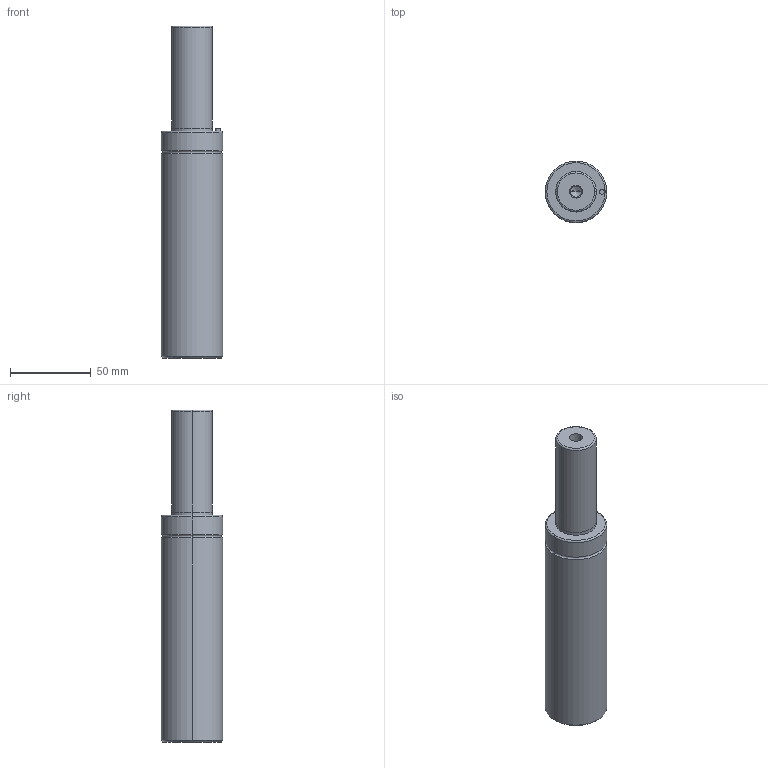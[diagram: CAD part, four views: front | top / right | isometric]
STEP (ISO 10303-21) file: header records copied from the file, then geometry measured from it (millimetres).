
FILE_DESCRIPTION(/* description */ (''),/* implementation_level */ '2;1');
FILE_NAME(/* name */ '3d_gsm38-63_03905_r00.stp',/* time_stamp */ '2011-01-10T14:15:15+09:00',/* author */ ('MISUMI'),/* organization */ (''),/* preprocessor_version */ 'ST-DEVELOPER v11',/* originating_system */ 'UGS - NX 5.0',/* authorisation */ '');
FILE_SCHEMA (('CONFIG_CONTROL_DESIGN'));
Length unit declared in the file: millimetre
Products named in the file (1): 3d_gsm38-63_03905_r00
Bounding box: 38 x 38 x 205 mm (x, y, z)
Volume: 188627.7 mm3; surface area: 25063.9 mm2
Topology: 1 solids, 1 shells, 50 faces, 106 edges, 60 vertices
Faces by surface type: cylinder 26, cone 10, plane 8, torus 6
Entity records: 1382 total; most frequent: DIRECTION 262, CARTESIAN_POINT 209, ORIENTED_EDGE 196, AXIS2_PLACEMENT_3D 113, EDGE_CURVE 98, CIRCLE 62, EDGE_LOOP 60, VERTEX_POINT 60
